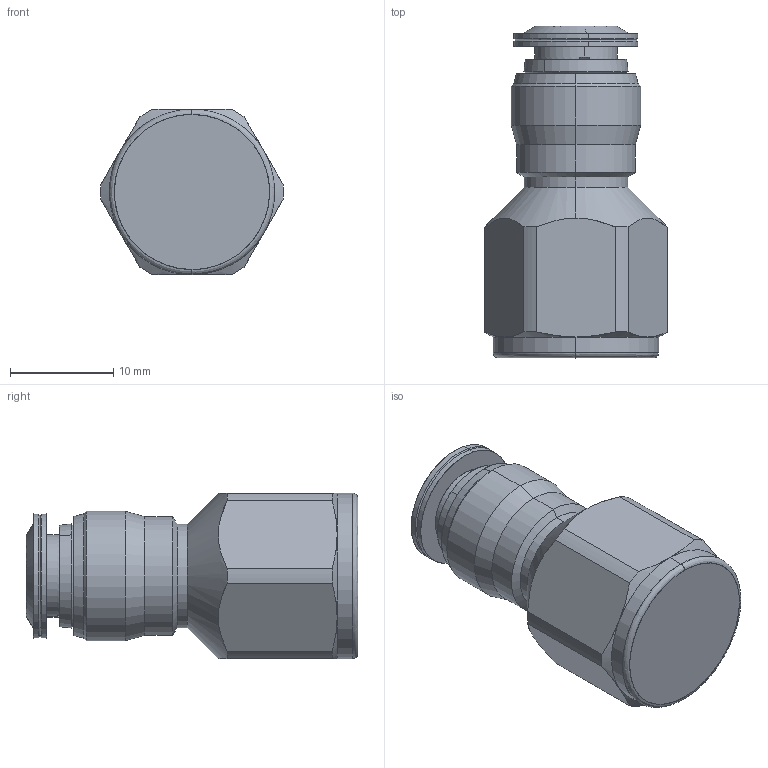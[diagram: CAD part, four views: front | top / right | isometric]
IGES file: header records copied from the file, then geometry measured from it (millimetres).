
Start section: SolidWorks IGES file using analytic representation for surfaces
Global section: file name: K:\Disegni Esecutivi\ALPHA TECHNOLOGIES\Assiemi-89000\89030\89030_iges\8903000006A.IGS; native system: SolidWorks 2011; preprocessor: SolidWorks 2011; author: cad05; date: 110215.172021; units: millimetre
Bounding box: 17.7 x 32.1 x 16 mm (x, y, z)
Surface area: 1921.8 mm2 (no closed solid volume)
Topology: 0 solids, 0 shells, 64 faces, 690 edges, 690 vertices
Faces by surface type: revolution 47, bspline 17
